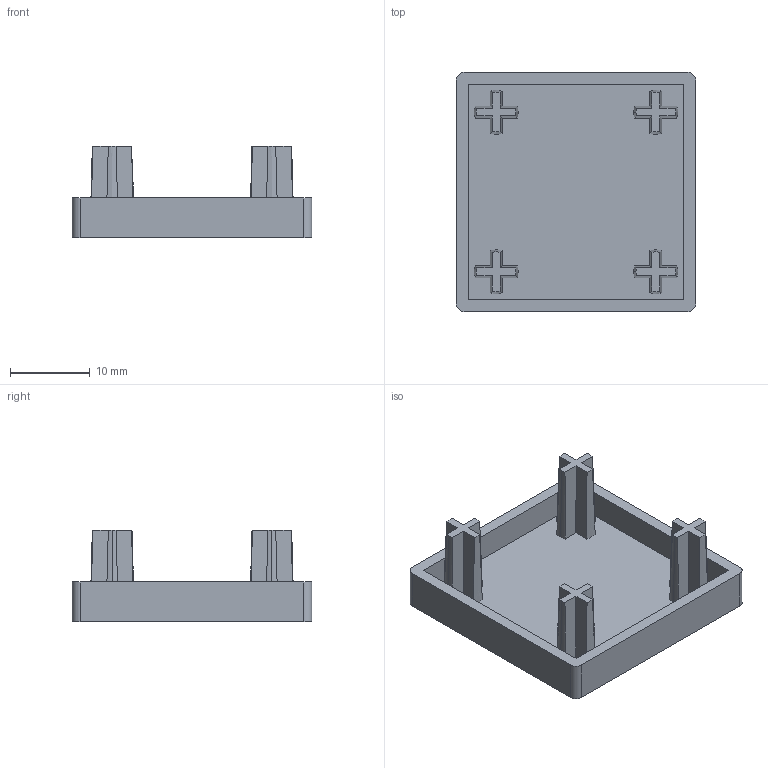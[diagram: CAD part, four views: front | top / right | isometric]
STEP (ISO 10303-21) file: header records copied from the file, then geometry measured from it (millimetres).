
FILE_DESCRIPTION (( 'STEP AP203' ), '1' );
FILE_NAME ('EC3030-6.STEP', '2024-02-17T07:13:11', ( '' ), ( '' ), 'SwSTEP 2.0', 'SolidWorks 2022', '' );
FILE_SCHEMA (( 'CONFIG_CONTROL_DESIGN' ));
Length unit declared in the file: millimetre
Products named in the file (1): EC3030-6
Bounding box: 30 x 30 x 11.5 mm (x, y, z)
Volume: 2397.6 mm3; surface area: 3562.7 mm2
Topology: 1 solids, 1 shells, 71 faces, 192 edges, 128 vertices
Faces by surface type: plane 47, cone 20, cylinder 4
Entity records: 2439 total; most frequent: CARTESIAN_POINT 584, ORIENTED_EDGE 384, DIRECTION 352, EDGE_CURVE 192, VERTEX_POINT 128, AXIS2_PLACEMENT_3D 120, VECTOR 112, LINE 112
